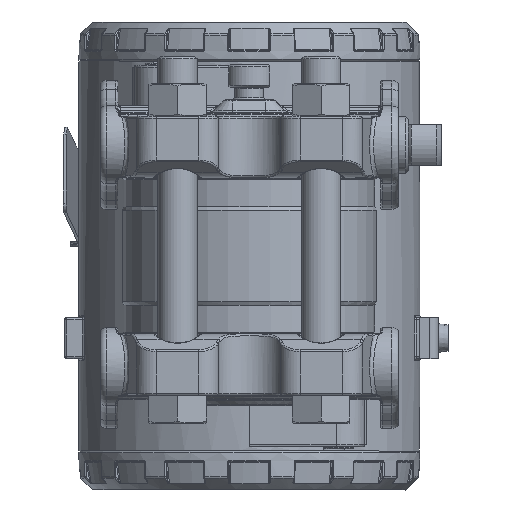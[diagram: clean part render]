
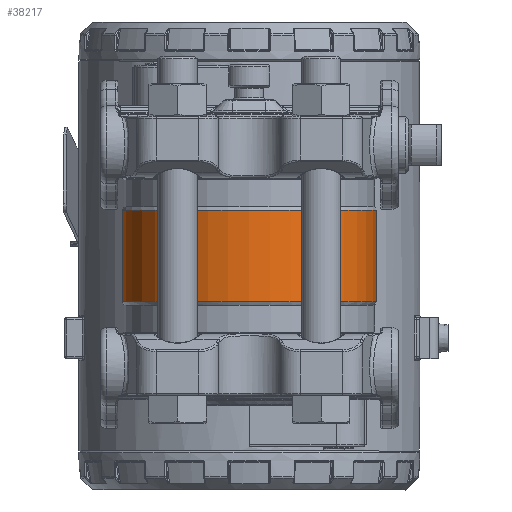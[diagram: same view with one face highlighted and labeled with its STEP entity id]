
A CAD part, left-side view. The second image highlights one B-rep face of the part: STEP entity #38217.
In plain terms, the highlighted cylindrical face has radius 31 mm (diameter 62 mm), a partial arc.
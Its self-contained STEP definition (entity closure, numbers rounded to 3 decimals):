
#2334=B_SPLINE_CURVE_WITH_KNOTS('',3,(#69281,#69282,#69283,#69284,#69285),
 .UNSPECIFIED.,.F.,.F.,(4,1,4),(0.57,0.913,1.279),
 .UNSPECIFIED.);
#2336=B_SPLINE_CURVE_WITH_KNOTS('',3,(#69298,#69299,#69300,#69301,#69302,
#69303),.UNSPECIFIED.,.F.,.F.,(4,1,1,4),(0.,0.274,0.548,
0.708),.UNSPECIFIED.);
#2337=B_SPLINE_CURVE_WITH_KNOTS('',3,(#69306,#69307,#69308,#69309,#69310),
 .UNSPECIFIED.,.F.,.F.,(4,1,4),(0.57,0.913,1.279),
 .UNSPECIFIED.);
#2338=B_SPLINE_CURVE_WITH_KNOTS('',3,(#69312,#69313,#69314,#69315,#69316,
#69317),.UNSPECIFIED.,.F.,.F.,(4,1,1,4),(0.,0.274,
0.548,0.708),.UNSPECIFIED.);
#3915=CYLINDRICAL_SURFACE('',#42227,31.);
#5192=FACE_OUTER_BOUND('',#7763,.T.);
#7763=EDGE_LOOP('',(#29180,#29181,#29182,#29183,#29184,#29185,#29186,#29187,
#29188,#29189));
#9960=LINE('',#69305,#11335);
#9961=LINE('',#69318,#11336);
#11335=VECTOR('',#49704,10.);
#11336=VECTOR('',#49705,10.);
#13329=CIRCLE('',#42207,31.);
#13332=CIRCLE('',#42210,31.);
#13338=CIRCLE('',#42220,31.);
#13339=CIRCLE('',#42221,31.);
#16520=VERTEX_POINT('',#69132);
#16522=VERTEX_POINT('',#69145);
#16523=VERTEX_POINT('',#69156);
#16535=VERTEX_POINT('',#69219);
#16536=VERTEX_POINT('',#69221);
#16537=VERTEX_POINT('',#69233);
#16539=VERTEX_POINT('',#69280);
#16542=VERTEX_POINT('',#69297);
#16543=VERTEX_POINT('',#69304);
#16544=VERTEX_POINT('',#69311);
#20959=EDGE_CURVE('',#16523,#16522,#13329,.T.);
#20963=EDGE_CURVE('',#16520,#16523,#13332,.T.);
#20975=EDGE_CURVE('',#16536,#16535,#13338,.T.);
#20978=EDGE_CURVE('',#16535,#16537,#13339,.T.);
#20982=EDGE_CURVE('',#16520,#16539,#2334,.T.);
#20986=EDGE_CURVE('',#16542,#16522,#2336,.T.);
#20987=EDGE_CURVE('',#16543,#16542,#9960,.T.);
#20988=EDGE_CURVE('',#16536,#16543,#2337,.T.);
#20989=EDGE_CURVE('',#16544,#16537,#2338,.T.);
#20990=EDGE_CURVE('',#16539,#16544,#9961,.T.);
#29180=ORIENTED_EDGE('',*,*,#20963,.T.);
#29181=ORIENTED_EDGE('',*,*,#20959,.T.);
#29182=ORIENTED_EDGE('',*,*,#20986,.F.);
#29183=ORIENTED_EDGE('',*,*,#20987,.F.);
#29184=ORIENTED_EDGE('',*,*,#20988,.F.);
#29185=ORIENTED_EDGE('',*,*,#20975,.T.);
#29186=ORIENTED_EDGE('',*,*,#20978,.T.);
#29187=ORIENTED_EDGE('',*,*,#20989,.F.);
#29188=ORIENTED_EDGE('',*,*,#20990,.F.);
#29189=ORIENTED_EDGE('',*,*,#20982,.F.);
#38217=ADVANCED_FACE('',(#5192),#3915,.T.);
#42207=AXIS2_PLACEMENT_3D('',#69157,#49658,#49659);
#42210=AXIS2_PLACEMENT_3D('',#69163,#49665,#49666);
#42220=AXIS2_PLACEMENT_3D('',#69222,#49687,#49688);
#42221=AXIS2_PLACEMENT_3D('',#69244,#49689,#49690);
#42227=AXIS2_PLACEMENT_3D('',#69296,#49702,#49703);
#49658=DIRECTION('center_axis',(0.,0.,1.));
#49659=DIRECTION('ref_axis',(-1.,0.,0.));
#49665=DIRECTION('center_axis',(0.,0.,1.));
#49666=DIRECTION('ref_axis',(-1.,0.,0.));
#49687=DIRECTION('center_axis',(0.,0.,-1.));
#49688=DIRECTION('ref_axis',(-1.,0.,0.));
#49689=DIRECTION('center_axis',(0.,0.,-1.));
#49690=DIRECTION('ref_axis',(-1.,0.,0.));
#49702=DIRECTION('center_axis',(0.,0.,1.));
#49703=DIRECTION('ref_axis',(-1.,0.,0.));
#49704=DIRECTION('',(0.,0.,-1.));
#49705=DIRECTION('',(0.,0.,1.));
#69132=CARTESIAN_POINT('',(29.591,9.241,-11.134));
#69145=CARTESIAN_POINT('',(29.591,-9.241,-11.134));
#69156=CARTESIAN_POINT('',(-31.,0.,-11.134));
#69157=CARTESIAN_POINT('Origin',(0.,0.,-11.134));
#69163=CARTESIAN_POINT('Origin',(0.,0.,-11.134));
#69219=CARTESIAN_POINT('',(-31.,0.,11.134));
#69221=CARTESIAN_POINT('',(29.591,-9.241,11.134));
#69222=CARTESIAN_POINT('Origin',(0.,0.,11.134));
#69233=CARTESIAN_POINT('',(29.591,9.241,11.134));
#69244=CARTESIAN_POINT('Origin',(0.,0.,11.134));
#69280=CARTESIAN_POINT('',(28.645,11.853,-5.));
#69281=CARTESIAN_POINT('Ctrl Pts',(29.591,9.241,-11.133));
#69282=CARTESIAN_POINT('Ctrl Pts',(29.348,10.019,-10.419));
#69283=CARTESIAN_POINT('Ctrl Pts',(28.86,11.344,-8.57));
#69284=CARTESIAN_POINT('Ctrl Pts',(28.645,11.853,-6.218));
#69285=CARTESIAN_POINT('Ctrl Pts',(28.645,11.853,-5.));
#69296=CARTESIAN_POINT('Origin',(0.,0.,0.));
#69297=CARTESIAN_POINT('',(28.645,-11.853,-5.));
#69298=CARTESIAN_POINT('Ctrl Pts',(28.645,-11.853,-5.));
#69299=CARTESIAN_POINT('Ctrl Pts',(28.645,-11.853,-5.913));
#69300=CARTESIAN_POINT('Ctrl Pts',(28.767,-11.563,-7.738));
#69301=CARTESIAN_POINT('Ctrl Pts',(29.174,-10.51,-9.79));
#69302=CARTESIAN_POINT('Ctrl Pts',(29.477,-9.605,-10.8));
#69303=CARTESIAN_POINT('Ctrl Pts',(29.59,-9.241,-11.134));
#69304=CARTESIAN_POINT('',(28.645,-11.853,5.));
#69305=CARTESIAN_POINT('',(28.645,-11.853,0.));
#69306=CARTESIAN_POINT('Ctrl Pts',(29.591,-9.241,11.133));
#69307=CARTESIAN_POINT('Ctrl Pts',(29.348,-10.019,10.419));
#69308=CARTESIAN_POINT('Ctrl Pts',(28.86,-11.344,8.57));
#69309=CARTESIAN_POINT('Ctrl Pts',(28.645,-11.853,6.218));
#69310=CARTESIAN_POINT('Ctrl Pts',(28.645,-11.853,5.));
#69311=CARTESIAN_POINT('',(28.645,11.853,5.));
#69312=CARTESIAN_POINT('Ctrl Pts',(28.645,11.853,5.));
#69313=CARTESIAN_POINT('Ctrl Pts',(28.645,11.853,5.913));
#69314=CARTESIAN_POINT('Ctrl Pts',(28.767,11.563,7.738));
#69315=CARTESIAN_POINT('Ctrl Pts',(29.174,10.51,9.79));
#69316=CARTESIAN_POINT('Ctrl Pts',(29.477,9.605,10.8));
#69317=CARTESIAN_POINT('Ctrl Pts',(29.59,9.241,11.134));
#69318=CARTESIAN_POINT('',(28.645,11.853,0.));
